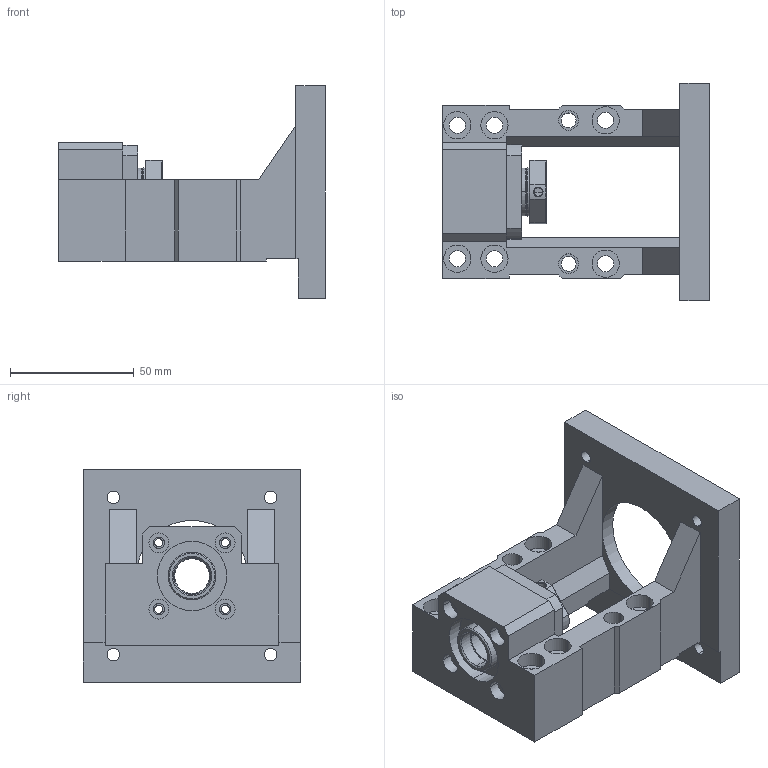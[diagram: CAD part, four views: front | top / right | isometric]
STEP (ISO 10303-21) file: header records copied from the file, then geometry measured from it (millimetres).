
FILE_DESCRIPTION((''),'2;1');
FILE_NAME('M80E-BK15-C_ASM','2020-10-17T',('Administrator'),(''),'PRO/ENGINEER BY PARAMETRIC TECHNOLOGY CORPORATION, 2010280','PRO/ENGINEER BY PARAMETRIC TECHNOLOGY CORPORATION, 2010280','');
FILE_SCHEMA(('CONFIG_CONTROL_DESIGN'));
Length unit declared in the file: millimetre
Products named in the file (9): MANIFOLD_SOLID_BREP_634; 1MBCB15-D-02_ASM; 1MBCB15-D-03; 2; 1TU_A__15_ASM; 1MBCB15-D-04; MANIFOLD_SOLID_BREP_631; 1MBCB-15D_ASM; M80E-BK15-C_ASM
Assembly tree (8 placements, depth 4):
  M80E-BK15-C_ASM
    1MBCB-15D_ASM
      1MBCB15-D-02_ASM
        MANIFOLD_SOLID_BREP_634
      1MBCB15-D-03
      1TU_A__15_ASM
        2
      1MBCB15-D-04
      MANIFOLD_SOLID_BREP_631
Bounding box: 108 x 88 x 86 mm (x, y, z)
Volume: 182285.3 mm3; surface area: 57847.1 mm2
Topology: 5 solids, 5 shells, 214 faces, 558 edges, 365 vertices
Faces by surface type: cylinder 98, plane 82, cone 30, bspline 4
Entity records: 7346 total; most frequent: CARTESIAN_POINT 1593, DIRECTION 1231, ORIENTED_EDGE 1116, EDGE_CURVE 558, AXIS2_PLACEMENT_3D 473, VERTEX_POINT 365, VECTOR 285, LINE 285
